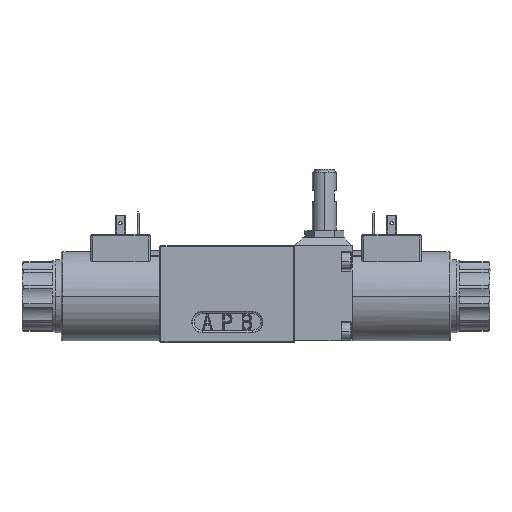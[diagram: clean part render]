
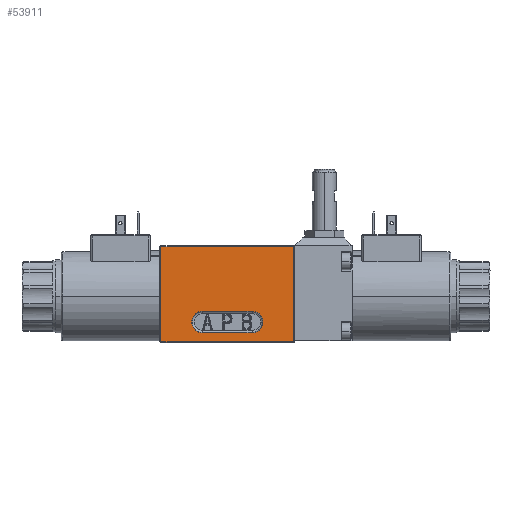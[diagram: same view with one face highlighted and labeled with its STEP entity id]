
A CAD part, top view. The second image highlights one B-rep face of the part: STEP entity #53911.
In plain terms, the highlighted planar face has unit normal (0, 0, 1).
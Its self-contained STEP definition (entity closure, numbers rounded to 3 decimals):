
#200 = ORIENTED_EDGE ( 'NONE', *, *, #79414, .T. ) ;
#1440 = AXIS2_PLACEMENT_3D ( 'NONE', #55967, #56606, #70067 ) ;
#1833 = AXIS2_PLACEMENT_3D ( 'NONE', #84739, #40572, #32558 ) ;
#3265 = ORIENTED_EDGE ( 'NONE', *, *, #19174, .T. ) ;
#4108 = CARTESIAN_POINT ( 'NONE',  ( 33.5, -23.5, 23. ) ) ;
#5059 = VECTOR ( 'NONE', #54472, 1000. ) ;
#5641 = CARTESIAN_POINT ( 'NONE',  ( -33.5, 24.5, 23. ) ) ;
#6438 = DIRECTION ( 'NONE',  ( 0., 1., 0. ) ) ;
#6702 = DIRECTION ( 'NONE',  ( 0., -1., 0. ) ) ;
#8545 = VECTOR ( 'NONE', #16370, 1000. ) ;
#9515 = VECTOR ( 'NONE', #6438, 1000. ) ;
#9719 = DIRECTION ( 'NONE',  ( 0., 0., -1. ) ) ;
#10152 = CARTESIAN_POINT ( 'NONE',  ( 12.5, -18.971, 23. ) ) ;
#11010 = DIRECTION ( 'NONE',  ( 1., 0., 0. ) ) ;
#12006 = ORIENTED_EDGE ( 'NONE', *, *, #54900, .T. ) ;
#15874 = DIRECTION ( 'NONE',  ( 1., 0., 0. ) ) ;
#15886 = CARTESIAN_POINT ( 'NONE',  ( 17.971, -13.5, 23. ) ) ;
#16370 = DIRECTION ( 'NONE',  ( -1., 0., 0. ) ) ;
#16615 = CARTESIAN_POINT ( 'NONE',  ( -35., 24.5, 23. ) ) ;
#18020 = CARTESIAN_POINT ( 'NONE',  ( 12.5, -8.029, 23. ) ) ;
#18279 = ORIENTED_EDGE ( 'NONE', *, *, #92092, .T. ) ;
#19058 = FACE_OUTER_BOUND ( 'NONE', #45254, .T. ) ;
#19174 = EDGE_CURVE ( 'NONE', #86230, #52470, #23577, .T. ) ;
#19604 = CARTESIAN_POINT ( 'NONE',  ( 33.5, -24., 23. ) ) ;
#21881 = ORIENTED_EDGE ( 'NONE', *, *, #53837, .T. ) ;
#22792 = VERTEX_POINT ( 'NONE', #78556 ) ;
#23577 = LINE ( 'NONE', #31321, #8545 ) ;
#24583 = CIRCLE ( 'NONE', #92687, 5.471 ) ;
#24849 = FACE_BOUND ( 'NONE', #77276, .T. ) ;
#25000 = ORIENTED_EDGE ( 'NONE', *, *, #66077, .T. ) ;
#25911 = LINE ( 'NONE', #16615, #5059 ) ;
#26274 = DIRECTION ( 'NONE',  ( 0., 0., -1. ) ) ;
#26802 = CARTESIAN_POINT ( 'NONE',  ( -12.5, -18.971, 23. ) ) ;
#30024 = ORIENTED_EDGE ( 'NONE', *, *, #54979, .T. ) ;
#30319 = VERTEX_POINT ( 'NONE', #87962 ) ;
#30964 = CARTESIAN_POINT ( 'NONE',  ( 12.5, -8.029, 23. ) ) ;
#31321 = CARTESIAN_POINT ( 'NONE',  ( 12.5, -18.971, 23. ) ) ;
#31606 = CARTESIAN_POINT ( 'NONE',  ( -33.5, -24., 23. ) ) ;
#32558 = DIRECTION ( 'NONE',  ( 1., 0., 0. ) ) ;
#33170 = DIRECTION ( 'NONE',  ( 1., 0., 0. ) ) ;
#33590 = AXIS2_PLACEMENT_3D ( 'NONE', #41115, #26274, #11010 ) ;
#33832 = EDGE_CURVE ( 'NONE', #69181, #30319, #36222, .T. ) ;
#36185 = ORIENTED_EDGE ( 'NONE', *, *, #33832, .T. ) ;
#36222 = LINE ( 'NONE', #19604, #9515 ) ;
#40572 = DIRECTION ( 'NONE',  ( 0., 0., 1. ) ) ;
#41115 = CARTESIAN_POINT ( 'NONE',  ( -12.5, -13.5, 23. ) ) ;
#45254 = EDGE_LOOP ( 'NONE', ( #18279, #200, #53282, #36185 ) ) ;
#48059 = CIRCLE ( 'NONE', #1440, 5.471 ) ;
#50463 = CIRCLE ( 'NONE', #33590, 5.471 ) ;
#52470 = VERTEX_POINT ( 'NONE', #26802 ) ;
#53071 = LINE ( 'NONE', #31606, #86609 ) ;
#53282 = ORIENTED_EDGE ( 'NONE', *, *, #95837, .T. ) ;
#53837 = EDGE_CURVE ( 'NONE', #65901, #77557, #59558, .T. ) ;
#53911 = ADVANCED_FACE ( 'NONE', ( #24849, #19058 ), #69514, .T. ) ;
#54175 = DIRECTION ( 'NONE',  ( 1., 0., 0. ) ) ;
#54472 = DIRECTION ( 'NONE',  ( -1., 0., 0. ) ) ;
#54900 = EDGE_CURVE ( 'NONE', #52470, #65901, #50463, .T. ) ;
#54979 = EDGE_CURVE ( 'NONE', #77557, #78370, #48059, .T. ) ;
#55967 = CARTESIAN_POINT ( 'NONE',  ( 12.5, -13.5, 23. ) ) ;
#56392 = CARTESIAN_POINT ( 'NONE',  ( -35., -23.5, 23. ) ) ;
#56606 = DIRECTION ( 'NONE',  ( 0., 0., -1. ) ) ;
#57670 = CARTESIAN_POINT ( 'NONE',  ( -12.5, -8.029, 23. ) ) ;
#59558 = LINE ( 'NONE', #30964, #88429 ) ;
#65901 = VERTEX_POINT ( 'NONE', #57670 ) ;
#66077 = EDGE_CURVE ( 'NONE', #78370, #86230, #24583, .T. ) ;
#69181 = VERTEX_POINT ( 'NONE', #4108 ) ;
#69514 = PLANE ( 'NONE',  #1833 ) ;
#70067 = DIRECTION ( 'NONE',  ( 1., 0., 0. ) ) ;
#74912 = LINE ( 'NONE', #56392, #85296 ) ;
#77276 = EDGE_LOOP ( 'NONE', ( #30024, #25000, #3265, #12006, #21881 ) ) ;
#77557 = VERTEX_POINT ( 'NONE', #18020 ) ;
#78370 = VERTEX_POINT ( 'NONE', #15886 ) ;
#78556 = CARTESIAN_POINT ( 'NONE',  ( -33.5, -23.5, 23. ) ) ;
#79414 = EDGE_CURVE ( 'NONE', #92294, #22792, #53071, .T. ) ;
#82729 = CARTESIAN_POINT ( 'NONE',  ( 12.5, -13.5, 23. ) ) ;
#84739 = CARTESIAN_POINT ( 'NONE',  ( -35., -24., 23. ) ) ;
#85296 = VECTOR ( 'NONE', #33170, 1000. ) ;
#86230 = VERTEX_POINT ( 'NONE', #10152 ) ;
#86609 = VECTOR ( 'NONE', #6702, 1000. ) ;
#87962 = CARTESIAN_POINT ( 'NONE',  ( 33.5, 24.5, 23. ) ) ;
#88429 = VECTOR ( 'NONE', #54175, 1000. ) ;
#92092 = EDGE_CURVE ( 'NONE', #30319, #92294, #25911, .T. ) ;
#92294 = VERTEX_POINT ( 'NONE', #5641 ) ;
#92687 = AXIS2_PLACEMENT_3D ( 'NONE', #82729, #9719, #15874 ) ;
#95837 = EDGE_CURVE ( 'NONE', #22792, #69181, #74912, .T. ) ;
